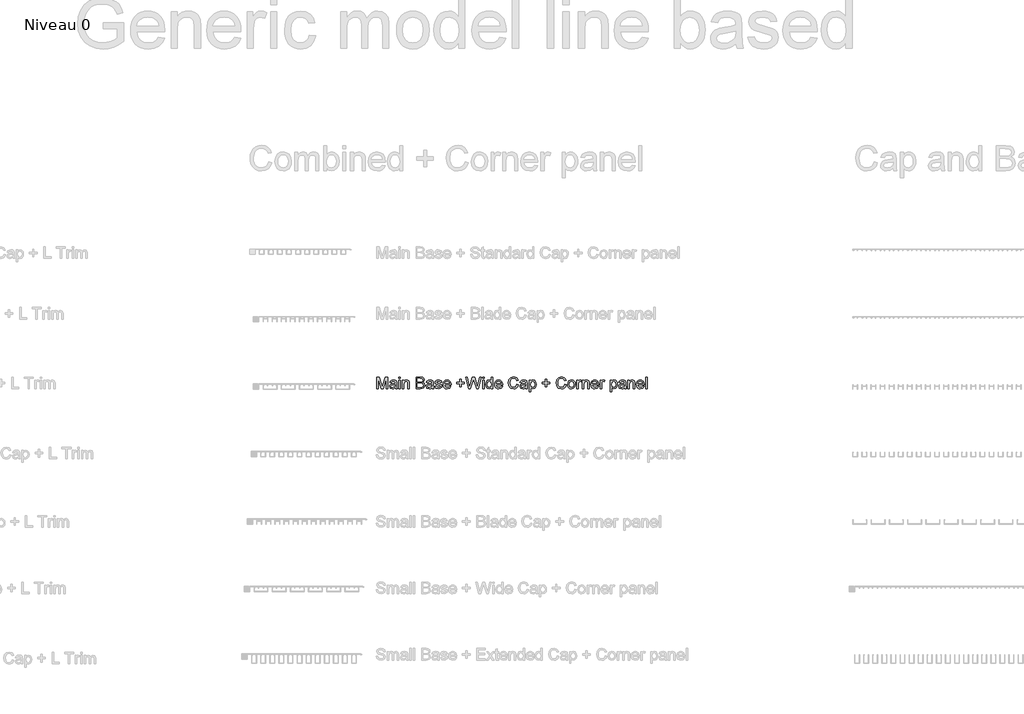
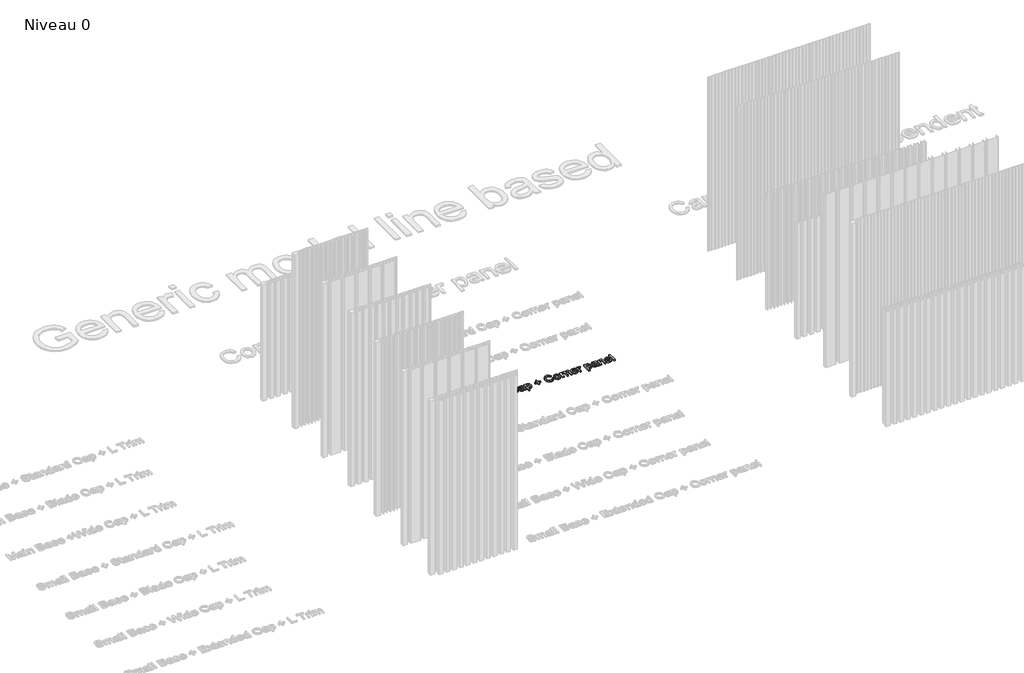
# One storey, part 15 of 25: 1 proxy.
"""IFC4 building model written with IfcOpenShell, lengths in millimetres."""

import ifcopenshell
import ifcopenshell.guid

model = None  # the IFC model being written
_history = None  # IfcOwnerHistory: only IFC2X3 demands one
_inside = {}  # id of a spatial element -> (the spatial element, [elements in it])
_under = {}  # id of a project, library or spatial element -> (it, [spatial elements below it])
_declared = {}  # id of a project -> (the project, [libraries it declares])
_typed = {}  # id of a type object -> (the type object, [elements of that type])
_made_of = {}  # id of a material, layer set ... -> (it, [elements and type objects made of it])


def new_model(schema):
    """Start an empty IFC model of exactly this schema.

    Asked for "IFC4X3", IfcOpenShell would pick the latest addendum, in which some entities
    have other attributes; the version numbers below select the first issue.
    IFC2X3 requires an IfcOwnerHistory on every rooted entity: one is made here for all.
    """
    global model, _history
    if schema == "IFC4X3":
        model = ifcopenshell.file(schema_version=(4, 3, 0, 0))
    else:
        model = ifcopenshell.file(schema=schema)
    _inside.clear()
    _under.clear()
    _declared.clear()
    _typed.clear()
    _made_of.clear()
    _history = None
    if model.schema == "IFC2X3":
        org = make("IfcOrganization", Name="unknown")
        user = make(
            "IfcPersonAndOrganization",
            ThePerson=make("IfcPerson", FamilyName="unknown"),
            TheOrganization=org,
        )
        app = make(
            "IfcApplication",
            ApplicationDeveloper=org,
            Version="unknown",
            ApplicationFullName="unknown",
            ApplicationIdentifier="unknown",
        )
        _history = make(
            "IfcOwnerHistory",
            OwningUser=user,
            OwningApplication=app,
            ChangeAction="ADDED",
            CreationDate=0,
        )
    return model


def make(cls, **values):
    """One entity of the class cls with the attributes given. An attribute that is None is left unset."""
    return model.create_entity(
        cls, **{name: value for name, value in values.items() if value is not None}
    )


def rooted(cls, **values):
    """An entity with a GlobalId (a new one), such as an element, a storey or a relation."""
    return make(cls, GlobalId=ifcopenshell.guid.new(), OwnerHistory=_history, **values)


def si_unit(unit_type, name, prefix=None):
    """IfcSIUnit, for example si_unit("LENGTHUNIT", "METRE", prefix="MILLI")."""
    return make("IfcSIUnit", UnitType=unit_type, Prefix=prefix, Name=name)


def assignment(units):
    """IfcUnitAssignment: the units of a project."""
    return None if units is None else make("IfcUnitAssignment", Units=units)


def point(xyz):
    """IfcCartesianPoint."""
    return None if xyz is None else make("IfcCartesianPoint", Coordinates=xyz)


def direction(xyz):
    """IfcDirection."""
    return None if xyz is None else make("IfcDirection", DirectionRatios=xyz)


def frame(location, z_axis=None, x_axis=None):
    """IfcAxis2Placement3D, a coordinate frame: its origin and axes. An axis left out is left unset."""
    return make(
        "IfcAxis2Placement3D",
        Location=point(location),
        Axis=direction(z_axis),
        RefDirection=direction(x_axis),
    )


def origin():
    """The frame at (0, 0, 0) with its axes left unset."""
    return frame((0.0, 0.0, 0.0))


def origin_with_axes():
    """The frame at (0, 0, 0) with the z axis (0, 0, 1) and the x axis (1, 0, 0) written out."""
    return frame((0.0, 0.0, 0.0), z_axis=(0.0, 0.0, 1.0), x_axis=(1.0, 0.0, 0.0))


def place(relative_to, where):
    """IfcLocalPlacement: puts the frame where relative to a parent placement (None: the world)."""
    return make(
        "IfcLocalPlacement", PlacementRelTo=relative_to, RelativePlacement=where
    )


def context(
    kind, dimensions, precision=None, world=None, true_north=None, identifier=None
):
    """IfcGeometricRepresentationContext, for example the 3D "Model" context."""
    return make(
        "IfcGeometricRepresentationContext",
        ContextIdentifier=identifier,
        ContextType=kind,
        CoordinateSpaceDimension=dimensions,
        Precision=precision,
        WorldCoordinateSystem=world,
        TrueNorth=true_north,
    )


def project(units=None, contexts=None):
    """IfcProject with its units and contexts."""
    return rooted(
        "IfcProject",
        Name="project",
        RepresentationContexts=contexts,
        UnitsInContext=assignment(units),
    )


def spatial(cls, under=None, at=None, **own):
    """A site, building, storey or space (cls), placed at a placement, below another one or the project."""
    s = rooted(cls, ObjectPlacement=at, **own)
    if under is not None:
        _under.setdefault(under.id(), (under, []))[1].append(s)
    return s


def polyline(points):
    """IfcPolyline through the points."""
    return make("IfcPolyline", Points=[point(p) for p in points])


def outline(outer, holes=None, kind="AREA"):
    """IfcArbitraryClosedProfileDef: a profile drawn as a closed curve; with holes, ...WithVoids."""
    if holes is None:
        return make("IfcArbitraryClosedProfileDef", ProfileType=kind, OuterCurve=outer)
    return make(
        "IfcArbitraryProfileDefWithVoids",
        ProfileType=kind,
        OuterCurve=outer,
        InnerCurves=holes,
    )


def extrude(swept, where, along, depth):
    """IfcExtrudedAreaSolid: the profile swept, set in the frame where, extruded along a direction by depth."""
    return make(
        "IfcExtrudedAreaSolid",
        SweptArea=swept,
        Position=where,
        ExtrudedDirection=direction(along),
        Depth=depth,
    )


def shape(context_of_items, identifier, shape_type, items):
    """IfcShapeRepresentation: the items that make up one representation, for example the "Body"."""
    return make(
        "IfcShapeRepresentation",
        ContextOfItems=context_of_items,
        RepresentationIdentifier=identifier,
        RepresentationType=shape_type,
        Items=items,
    )


def made_of(thing, what):
    """Note that an element or type object is made of a material, layer set ...; save() writes the relation."""
    if what is not None:
        _made_of.setdefault(what.id(), (what, []))[1].append(thing)
    return thing


def element(
    cls,
    number,
    at=None,
    inside=None,
    cuts=None,
    type_object=None,
    material=None,
    context=None,
    identifier="Body",
    shape_type=None,
    held_by="IfcProductDefinitionShape",
    body=None,
    shapes=None,
    **own,
):
    """One element of the class cls, such as IfcWall. Its Tag is "e" and its number.

    at: its placement. inside: the storey or other place that contains it. cuts: it is an
    opening in that element (IfcRelVoidsElement). A single representation is given by context,
    identifier, shape_type and body (its items); several are given by shapes. held_by: the class
    of the entity that holds the representations. save() writes the other relations.
    """
    e = rooted(cls, Tag="e%d" % number, ObjectPlacement=at, **own)
    if body is not None:
        shapes = [shape(context, identifier, shape_type, body)]
    if shapes is not None:
        e.Representation = make(held_by, Representations=shapes)
    if inside is not None:
        _inside.setdefault(inside.id(), (inside, []))[1].append(e)
    if cuts is not None:
        rooted(
            "IfcRelVoidsElement", RelatingBuildingElement=cuts, RelatedOpeningElement=e
        )
    if type_object is not None:
        _typed.setdefault(type_object.id(), (type_object, []))[1].append(e)
    return made_of(e, material)


def aggregate(whole, parts):
    """IfcRelAggregates: a whole, such as a stair, and the parts it consists of."""
    return rooted("IfcRelAggregates", RelatingObject=whole, RelatedObjects=parts)


def save(model, path):
    """Write the relations noted so far, then the file.

    IfcRelAggregates (storeys below a building ...), IfcRelContainedInSpatialStructure (elements
    in a storey), IfcRelDefinesByType, IfcRelAssociatesMaterial and IfcRelDeclares: one each for
    every whole, place, type object, material and project.
    """
    for whole, parts in _under.values():
        aggregate(whole, parts)
    for where, things in _inside.values():
        rooted(
            "IfcRelContainedInSpatialStructure",
            RelatedElements=things,
            RelatingStructure=where,
        )
    for kind, things in _typed.values():
        rooted("IfcRelDefinesByType", RelatedObjects=things, RelatingType=kind)
    for what, things in _made_of.values():
        rooted("IfcRelAssociatesMaterial", RelatedObjects=things, RelatingMaterial=what)
    for by, libraries in _declared.values():
        rooted("IfcRelDeclares", RelatingContext=by, RelatedDefinitions=libraries)
    model.write(path)


model = new_model("IFC4")

# Units and contexts
model_context = context("Model", 3, world=origin())
ifc_project = project(units=[si_unit("LENGTHUNIT", "METRE", prefix="MILLI")], contexts=[model_context])

# Site, building, storey
site = spatial("IfcSite", under=ifc_project)
building = spatial("IfcBuilding", under=site)
storey = spatial("IfcBuildingStorey", under=building, Name="Niveau 0", Elevation=0.0)

# Proxy
placement = place(None, origin())
element("IfcBuildingElementProxy", 1, Name="70mm Arial", ObjectType="70mm Arial", at=placement, inside=storey, context=model_context, shape_type="SweptSolid", body=[
    extrude(outline(polyline([(3886.1765083, 3725.5948416), (3886.1765083, 3795.9142587), (3901.3013634, 3795.9142587), (3915.688002, 3746.3507438), (3918.5893646, 3735.9985444), (3921.7310769, 3747.2091351), (3935.8773659, 3795.9142587), (3951.0022209, 3795.9142587), (3951.0022209, 3725.5948416), (3942.2122938, 3725.5948416), (3942.2122938, 3787.1243316), (3924.5466004, 3725.5948416), (3912.6321289, 3725.5948416), (3894.9664354, 3787.1243316), (3894.9664354, 3725.5948416), (3886.1765083, 3725.5948416)])), origin_with_axes(), (0.0, 0.0, 1.0), 10.0),
    extrude(outline(polyline([(3998.2480793, 3732.187287), (3989.7242535, 3726.2300512), (3980.3077007, 3724.4961007), (3967.5434217, 3728.6678825), (3963.0883708, 3739.3291028), (3964.7708178, 3746.2820725), (3969.1915331, 3751.3294134), (3975.3461988, 3754.2136083), (3982.951546, 3755.5355309), (3998.1965758, 3758.5570684), (3998.2480793, 3760.5142006), (3995.8274158, 3767.003639), (3986.110426, 3769.5444773), (3977.2174919, 3767.8534464), (3972.9770388, 3761.8532911), (3964.1871117, 3762.9520319), (3967.9897852, 3771.5359452), (3975.6466358, 3776.5661183), (3987.2435026, 3778.3344044), (3997.8961389, 3776.7721322), (4003.913462, 3772.8492839), (4006.6088108, 3766.8834642), (4007.0380065, 3759.192278), (4007.0380065, 3748.2563725), (4007.4843699, 3732.9855909), (4009.2354882, 3725.5948416), (4000.4455611, 3725.5948416), (3998.2480793, 3732.187287)]), holes=[polyline([(3998.2480793, 3749.7671412), (3984.0674547, 3747.0717925), (3976.5050271, 3745.6468629), (3973.0800458, 3743.3292063), (3971.8782979, 3739.9471445), (3974.4963914, 3735.1916566), (3982.1789938, 3733.2860279), (3991.0719279, 3735.3890866), (3996.8059819, 3740.4793471), (3998.1965758, 3747.2778064), (3998.2480793, 3749.7671412)])]), origin_with_axes(), (0.0, 0.0, 1.0), 10.0),
    extrude(outline(polyline([(4019.1241563, 3725.5948416), (4019.1241563, 3777.2356635), (4027.9140834, 3777.2356635), (4027.9140834, 3725.5948416), (4019.1241563, 3725.5948416)])), origin_with_axes(), (0.0, 0.0, 1.0), 10.0),
    extrude(outline(polyline([(4019.1241563, 3787.1243316), (4019.1241563, 3795.9142587), (4027.9140834, 3795.9142587), (4027.9140834, 3787.1243316), (4019.1241563, 3787.1243316)])), origin_with_axes(), (0.0, 0.0, 1.0), 10.0),
    extrude(outline(polyline([(4041.0989741, 3725.5948416), (4041.0989741, 3777.2356635), (4049.8889013, 3777.2356635), (4049.8889013, 3770.0251764), (4056.6101053, 3776.2570974), (4065.7863085, 3778.3344044), (4074.0869526, 3776.6605414), (4079.7523353, 3772.2655778), (4082.3875967, 3765.8018911), (4082.851128, 3757.303817), (4082.851128, 3725.5948416), (4074.0612009, 3725.5948416), (4074.0612009, 3756.119237), (4073.0482991, 3763.8962624), (4069.4688073, 3768.0079568), (4063.4343163, 3769.5444773), (4053.8975887, 3766.0937442), (4049.8889013, 3752.9946926), (4049.8889013, 3725.5948416), (4041.0989741, 3725.5948416)])), origin_with_axes(), (0.0, 0.0, 1.0), 10.0),
    extrude(outline(polyline([(4123.504541, 3725.5948416), (4123.504541, 3795.9142587), (4150.3378538, 3795.9142587), (4163.4798249, 3793.8455356), (4171.2396825, 3787.4848559), (4174.0466221, 3778.4889149), (4171.6860459, 3770.2741099), (4164.5528141, 3764.0507728), (4173.2139825, 3757.4926631), (4176.2441039, 3746.5567577), (4174.1753808, 3737.1058692), (4169.0507846, 3730.3760813), (4161.4025179, 3726.8051734), (4150.1318398, 3725.5948416), (4123.504541, 3725.5948416)]), holes=[polyline([(4132.2944682, 3767.3469955), (4148.3463859, 3767.3469955), (4157.7200191, 3768.1023799), (4163.3596501, 3771.355683), (4165.2566949, 3777.0811531), (4163.4884088, 3782.8152071), (4158.4239, 3786.2058529), (4147.1274702, 3787.1243316), (4132.2944682, 3787.1243316), (4132.2944682, 3767.3469955)]), polyline([(4132.2944682, 3734.3847687), (4150.3206859, 3734.3847687), (4156.84446, 3734.7281253), (4162.3639162, 3736.6423379), (4166.0206632, 3740.5480184), (4167.4541767, 3746.4709186), (4165.7717297, 3753.3037135), (4160.3209448, 3757.3810723), (4149.4622946, 3758.5570684), (4132.2944682, 3758.5570684), (4132.2944682, 3734.3847687)])]), origin_with_axes(), (0.0, 0.0, 1.0), 10.0),
    extrude(outline(polyline([(4220.1937396, 3732.187287), (4211.6699137, 3726.2300512), (4202.2533609, 3724.4961007), (4189.489082, 3728.6678825), (4185.034031, 3739.3291028), (4186.716478, 3746.2820725), (4191.1371933, 3751.3294134), (4197.2918591, 3754.2136083), (4204.8972062, 3755.5355309), (4220.1422361, 3758.5570684), (4220.1937396, 3760.5142006), (4217.773076, 3767.003639), (4208.0560863, 3769.5444773), (4199.1631522, 3767.8534464), (4194.922699, 3761.8532911), (4186.1327719, 3762.9520319), (4189.9354454, 3771.5359452), (4197.592296, 3776.5661183), (4209.1891628, 3778.3344044), (4219.8417991, 3776.7721322), (4225.8591223, 3772.8492839), (4228.554471, 3766.8834642), (4228.9836667, 3759.192278), (4228.9836667, 3748.2563725), (4229.4300302, 3732.9855909), (4231.1811485, 3725.5948416), (4222.3912213, 3725.5948416), (4220.1937396, 3732.187287)]), holes=[polyline([(4220.1937396, 3749.7671412), (4206.0131149, 3747.0717925), (4198.4506874, 3745.6468629), (4195.025706, 3743.3292063), (4193.8239581, 3739.9471445), (4196.4420517, 3735.1916566), (4204.124654, 3733.2860279), (4213.0175881, 3735.3890866), (4218.7516421, 3740.4793471), (4220.1422361, 3747.2778064), (4220.1937396, 3749.7671412)])]), origin_with_axes(), (0.0, 0.0, 1.0), 10.0),
    extrude(outline(polyline([(4237.7735938, 3740.9772141), (4246.563521, 3742.075955), (4250.6322958, 3735.5521809), (4259.9544256, 3733.2860279), (4268.916031, 3735.3633349), (4271.8345615, 3740.2389976), (4268.8988632, 3744.1875976), (4259.8514186, 3746.6941003), (4246.6150244, 3750.9946408), (4240.8380508, 3756.0162301), (4238.8723347, 3763.1065424), (4240.4517748, 3769.6560682), (4244.7608992, 3774.6604896), (4250.3490267, 3777.2614153), (4257.9114542, 3778.3344044), (4268.6070101, 3776.6090379), (4275.4054694, 3771.9393891), (4278.4270068, 3764.0507728), (4269.6370797, 3762.9520319), (4266.3322731, 3767.8019429), (4258.5981673, 3769.5444773), (4250.1859323, 3767.8791981), (4247.6622619, 3763.9992694), (4248.7094993, 3761.4412632), (4251.9885541, 3759.5012988), (4259.5595656, 3757.6300058), (4272.4611872, 3753.4925596), (4278.4527586, 3748.805743), (4280.6244886, 3741.1660602), (4278.0750664, 3732.7538252), (4270.7186528, 3726.6506629), (4259.8342508, 3724.4961007), (4244.5033818, 3728.6507147), (4237.7735938, 3740.9772141)])), origin_with_axes(), (0.0, 0.0, 1.0), 10.0),
    extrude(outline(polyline([(4326.6685991, 3740.9772141), (4335.286848, 3739.8784732), (4327.2265535, 3728.5305399), (4312.2132893, 3724.4961007), (4301.8997175, 3726.2364891), (4293.9638898, 3731.4576543), (4288.9036729, 3739.8205318), (4287.216934, 3750.9860569), (4288.9208408, 3762.5271282), (4294.0325611, 3771.158253), (4301.8610899, 3776.5403666), (4311.7154223, 3778.3344044), (4321.2628798, 3776.5446585), (4328.8918327, 3771.1754208), (4333.8941081, 3762.5614639), (4335.5615332, 3751.0375604), (4335.5100298, 3748.6684003), (4296.0068611, 3748.6684003), (4301.062786, 3737.2517958), (4312.3849675, 3733.2860279), (4321.0032164, 3735.1229853), (4326.6685991, 3740.9772141)]), holes=[polyline([(4296.0068611, 3757.4583275), (4326.7716061, 3757.4583275), (4323.2522017, 3765.424199), (4311.6810867, 3769.5444773), (4300.8567721, 3766.2568385), (4296.0068611, 3757.4583275)])]), origin_with_axes(), (0.0, 0.0, 1.0), 10.0),
    extrude(outline(polyline([(4389.399837, 3736.5822505), (4389.399837, 3755.2608457), (4370.7212418, 3755.2608457), (4370.7212418, 3764.0507728), (4389.399837, 3764.0507728), (4389.399837, 3782.729368), (4398.1897641, 3782.729368), (4398.1897641, 3764.0507728), (4416.8683593, 3764.0507728), (4416.8683593, 3755.2608457), (4398.1897641, 3755.2608457), (4398.1897641, 3736.5822505), (4389.399837, 3736.5822505)])), origin_with_axes(), (0.0, 0.0, 1.0), 10.0),
    extrude(outline(polyline([(4442.6372668, 3725.5948416), (4423.4608046, 3795.9142587), (4432.525417, 3795.9142587), (4443.6501685, 3749.6984699), (4447.0837338, 3735.4320062), (4450.7576487, 3748.0503586), (4464.6979237, 3795.9142587), (4477.7626397, 3795.9142587), (4487.8916573, 3761.2180815), (4495.4283331, 3735.4320062), (4498.7588914, 3749.2864421), (4509.9866499, 3795.9142587), (4519.0512622, 3795.9142587), (4499.8576323, 3725.5948416), (4490.4668312, 3725.5948416), (4473.6080257, 3779.8451732), (4471.2560334, 3787.4161846), (4468.6121882, 3778.3000688), (4453.2469835, 3725.5948416), (4442.6372668, 3725.5948416)])), origin_with_axes(), (0.0, 0.0, 1.0), 10.0),
    extrude(outline(polyline([(4526.7424485, 3725.5948416), (4526.7424485, 3777.2356635), (4535.5323756, 3777.2356635), (4535.5323756, 3725.5948416), (4526.7424485, 3725.5948416)])), origin_with_axes(), (0.0, 0.0, 1.0), 10.0),
    extrude(outline(polyline([(4526.7424485, 3787.1243316), (4526.7424485, 3795.9142587), (4535.5323756, 3795.9142587), (4535.5323756, 3787.1243316), (4526.7424485, 3787.1243316)])), origin_with_axes(), (0.0, 0.0, 1.0), 10.0),
    extrude(outline(polyline([(4580.5807522, 3725.5948416), (4580.5807522, 3733.8869018), (4574.765151, 3726.843801), (4566.7263163, 3724.4961007), (4555.8419143, 3727.8953304), (4548.1507281, 3737.3805545), (4545.4210437, 3751.3637491), (4547.9361302, 3765.3555277), (4555.472806, 3774.9866783), (4566.6919806, 3778.3344044), (4574.7951947, 3775.9394927), (4580.5807522, 3769.7161556), (4580.5807522, 3795.9142587), (4589.3706794, 3795.9142587), (4589.3706794, 3725.5948416), (4580.5807522, 3725.5948416)]), holes=[polyline([(4554.2109708, 3751.3980848), (4558.1767387, 3737.7925823), (4567.5332041, 3733.2860279), (4576.7780787, 3737.5865684), (4580.5807522, 3750.7285395), (4576.7094074, 3764.9950033), (4567.1726798, 3769.5444773), (4557.9192213, 3765.1752655), (4554.2109708, 3751.3980848)])]), origin_with_axes(), (0.0, 0.0, 1.0), 10.0),
    extrude(outline(polyline([(4638.7110125, 3740.9772141), (4647.3292614, 3739.8784732), (4639.2689669, 3728.5305399), (4624.2557027, 3724.4961007), (4613.9421309, 3726.2364891), (4606.0063032, 3731.4576543), (4600.9460863, 3739.8205318), (4599.2593474, 3750.9860569), (4600.9632542, 3762.5271282), (4606.0749745, 3771.158253), (4613.9035033, 3776.5403666), (4623.7578357, 3778.3344044), (4633.3052932, 3776.5446585), (4640.9342461, 3771.1754208), (4645.9365215, 3762.5614639), (4647.6039466, 3751.0375604), (4647.5524432, 3748.6684003), (4608.0492745, 3748.6684003), (4613.1051994, 3737.2517958), (4624.4273809, 3733.2860279), (4633.0456298, 3735.1229853), (4638.7110125, 3740.9772141)]), holes=[polyline([(4608.0492745, 3757.4583275), (4638.8140195, 3757.4583275), (4635.2946151, 3765.424199), (4623.7235001, 3769.5444773), (4612.8991855, 3766.2568385), (4608.0492745, 3757.4583275)])]), origin_with_axes(), (0.0, 0.0, 1.0), 10.0),
    extrude(outline(polyline([(4734.4044771, 3750.5911969), (4743.1944043, 3748.3250438), (4739.1385053, 3738.0822894), (4732.7735336, 3730.599263), (4724.4128021, 3726.0218913), (4714.3696237, 3724.4961007), (4696.0773046, 3729.114246), (4685.3474131, 3742.4879828), (4681.6649143, 3761.2867528), (4685.8281122, 3780.3945436), (4697.6653285, 3792.7811304), (4714.5584698, 3797.0129996), (4732.1640758, 3791.536463), (4742.0956634, 3776.1197548), (4733.3057362, 3774.02528), (4726.0952491, 3784.8324267), (4714.2151132, 3788.2230725), (4700.4636843, 3784.4633185), (4692.6952428, 3774.3686365), (4690.4548414, 3761.3039206), (4693.1072706, 3746.1618977), (4701.3649951, 3736.4878275), (4713.4940645, 3733.2860279), (4726.9450565, 3737.6466558), (4734.4044771, 3750.5911969)])), origin_with_axes(), (0.0, 0.0, 1.0), 10.0),
    extrude(outline(polyline([(4787.14404, 3732.187287), (4778.6202141, 3726.2300512), (4769.2036613, 3724.4961007), (4756.4393824, 3728.6678825), (4751.9843314, 3739.3291028), (4753.6667784, 3746.2820725), (4758.0874937, 3751.3294134), (4764.2421595, 3754.2136083), (4771.8475066, 3755.5355309), (4787.0925365, 3758.5570684), (4787.14404, 3760.5142006), (4784.7233764, 3767.003639), (4775.0063867, 3769.5444773), (4766.1134526, 3767.8534464), (4761.8729994, 3761.8532911), (4753.0830723, 3762.9520319), (4756.8857459, 3771.5359452), (4764.5425964, 3776.5661183), (4776.1394632, 3778.3344044), (4786.7920995, 3776.7721322), (4792.8094227, 3772.8492839), (4795.5047714, 3766.8834642), (4795.9339671, 3759.192278), (4795.9339671, 3748.2563725), (4796.3803306, 3732.9855909), (4798.1314489, 3725.5948416), (4789.3415217, 3725.5948416), (4787.14404, 3732.187287)]), holes=[polyline([(4787.14404, 3749.7671412), (4772.9634153, 3747.0717925), (4765.4009878, 3745.6468629), (4761.9760064, 3743.3292063), (4760.7742585, 3739.9471445), (4763.3923521, 3735.1916566), (4771.0749544, 3733.2860279), (4779.9678885, 3735.3890866), (4785.7019425, 3740.4793471), (4787.0925365, 3747.2778064), (4787.14404, 3749.7671412)])]), origin_with_axes(), (0.0, 0.0, 1.0), 10.0),
    extrude(outline(polyline([(4808.0201169, 3705.8175056), (4808.0201169, 3777.2356635), (4816.810044, 3777.2356635), (4816.810044, 3768.6174147), (4822.8874546, 3775.905157), (4831.0936756, 3778.3344044), (4842.235595, 3774.9351748), (4849.5147534, 3765.3555277), (4851.9697526, 3751.8101126), (4849.1971486, 3737.5694006), (4841.145438, 3727.8695786), (4830.0292704, 3724.4961007), (4822.3810037, 3726.7536699), (4816.810044, 3732.4619722), (4816.810044, 3705.8175056), (4808.0201169, 3705.8175056)]), holes=[polyline([(4816.810044, 3751.0032247), (4820.6127176, 3737.6123201), (4829.8404243, 3733.2860279), (4839.2569771, 3737.7668306), (4843.1798255, 3751.6556021), (4839.3514002, 3765.0808424), (4830.2009487, 3769.5444773), (4820.870235, 3764.7975733), (4816.810044, 3751.0032247)])]), origin_with_axes(), (0.0, 0.0, 1.0), 10.0),
    extrude(outline(polyline([(4906.9067972, 3736.5822505), (4906.9067972, 3755.2608457), (4888.228202, 3755.2608457), (4888.228202, 3764.0507728), (4906.9067972, 3764.0507728), (4906.9067972, 3782.729368), (4915.6967244, 3782.729368), (4915.6967244, 3764.0507728), (4934.3753195, 3764.0507728), (4934.3753195, 3755.2608457), (4915.6967244, 3755.2608457), (4915.6967244, 3736.5822505), (4906.9067972, 3736.5822505)])), origin_with_axes(), (0.0, 0.0, 1.0), 10.0),
    extrude(outline(polyline([(5024.4720727, 3750.5911969), (5033.2619998, 3748.3250438), (5029.2061008, 3738.0822894), (5022.8411292, 3730.599263), (5014.4803977, 3726.0218913), (5004.4372192, 3724.4961007), (4986.1449002, 3729.114246), (4975.4150086, 3742.4879828), (4971.7325099, 3761.2867528), (4975.8957078, 3780.3945436), (4987.7329241, 3792.7811304), (5004.6260653, 3797.0129996), (5022.2316713, 3791.536463), (5032.1632589, 3776.1197548), (5023.3733318, 3774.02528), (5016.1628447, 3784.8324267), (5004.2827088, 3788.2230725), (4990.5312798, 3784.4633185), (4982.7628383, 3774.3686365), (4980.522437, 3761.3039206), (4983.1748662, 3746.1618977), (4991.4325907, 3736.4878275), (5003.5616601, 3733.2860279), (5017.0126521, 3737.6466558), (5024.4720727, 3750.5911969)])), origin_with_axes(), (0.0, 0.0, 1.0), 10.0),
    extrude(outline(polyline([(5042.051927, 3751.4152526), (5043.9532637, 3763.8662187), (5049.6572741, 3772.6175182), (5065.1426535, 3778.3344044), (5074.3767982, 3776.594016), (5081.7525256, 3771.3728508), (5086.5874147, 3763.0829366), (5088.1990444, 3752.1363013), (5085.3491852, 3736.4964114), (5077.0485412, 3727.6463969), (5065.1426535, 3724.4961007), (5055.796918, 3726.2300512), (5048.4297745, 3731.4319026), (5043.6463888, 3739.895641), (5042.051927, 3751.4152526)]), holes=[polyline([(5050.8418541, 3751.4324204), (5054.910629, 3737.8097501), (5065.1426535, 3733.2860279), (5075.3403424, 3737.8355019), (5079.4091173, 3751.7071056), (5075.3145907, 3765.020755), (5065.1426535, 3769.5444773), (5054.910629, 3765.0379229), (5050.8418541, 3751.4324204)])]), origin_with_axes(), (0.0, 0.0, 1.0), 10.0),
    extrude(outline(polyline([(5098.0877125, 3725.5948416), (5098.0877125, 3777.2356635), (5105.7788987, 3777.2356635), (5105.7788987, 3769.5959808), (5111.2382675, 3776.6347896), (5116.731972, 3778.3344044), (5125.5562348, 3775.6218879), (5122.6205365, 3767.7418555), (5116.4401189, 3769.5444773), (5111.4700332, 3767.8105268), (5108.3025692, 3763.0035354), (5106.8776396, 3752.7371752), (5106.8776396, 3725.5948416), (5098.0877125, 3725.5948416)])), origin_with_axes(), (0.0, 0.0, 1.0), 10.0),
    extrude(outline(polyline([(5131.0499392, 3725.5948416), (5131.0499392, 3777.2356635), (5139.8398664, 3777.2356635), (5139.8398664, 3770.0251764), (5146.5610704, 3776.2570974), (5155.7372737, 3778.3344044), (5164.0379177, 3776.6605414), (5169.7033005, 3772.2655778), (5172.3385618, 3765.8018911), (5172.8020931, 3757.303817), (5172.8020931, 3725.5948416), (5164.012166, 3725.5948416), (5164.012166, 3756.119237), (5162.9992642, 3763.8962624), (5159.4197724, 3768.0079568), (5153.3852814, 3769.5444773), (5143.8485538, 3766.0937442), (5139.8398664, 3752.9946926), (5139.8398664, 3725.5948416), (5131.0499392, 3725.5948416)])), origin_with_axes(), (0.0, 0.0, 1.0), 10.0),
    extrude(outline(polyline([(5221.0436854, 3740.9772141), (5229.6619343, 3739.8784732), (5221.6016398, 3728.5305399), (5206.5883756, 3724.4961007), (5196.2748038, 3726.2364891), (5188.3389761, 3731.4576543), (5183.2787592, 3739.8205318), (5181.5920203, 3750.9860569), (5183.2959271, 3762.5271282), (5188.4076474, 3771.158253), (5196.2361762, 3776.5403666), (5206.0905086, 3778.3344044), (5215.6379661, 3776.5446585), (5223.266919, 3771.1754208), (5228.2691944, 3762.5614639), (5229.9366195, 3751.0375604), (5229.8851161, 3748.6684003), (5190.3819474, 3748.6684003), (5195.4378723, 3737.2517958), (5206.7600538, 3733.2860279), (5215.3783027, 3735.1229853), (5221.0436854, 3740.9772141)]), holes=[polyline([(5190.3819474, 3757.4583275), (5221.1466924, 3757.4583275), (5217.627288, 3765.424199), (5206.056173, 3769.5444773), (5195.2318584, 3766.2568385), (5190.3819474, 3757.4583275)])]), origin_with_axes(), (0.0, 0.0, 1.0), 10.0),
    extrude(outline(polyline([(5238.7265467, 3725.5948416), (5238.7265467, 3777.2356635), (5246.4177329, 3777.2356635), (5246.4177329, 3769.5959808), (5251.8771017, 3776.6347896), (5257.3708062, 3778.3344044), (5266.195069, 3775.6218879), (5263.2593707, 3767.7418555), (5257.0789531, 3769.5444773), (5252.1088674, 3767.8105268), (5248.9414034, 3763.0035354), (5247.5164738, 3752.7371752), (5247.5164738, 3725.5948416), (5238.7265467, 3725.5948416)])), origin_with_axes(), (0.0, 0.0, 1.0), 10.0),
    extrude(outline(polyline([(5299.1572958, 3705.8175056), (5299.1572958, 3777.2356635), (5307.9472229, 3777.2356635), (5307.9472229, 3768.6174147), (5314.0246335, 3775.905157), (5322.2308545, 3778.3344044), (5333.3727739, 3774.9351748), (5340.6519323, 3765.3555277), (5343.1069314, 3751.8101126), (5340.3343275, 3737.5694006), (5332.2826169, 3727.8695786), (5321.1664493, 3724.4961007), (5313.5181826, 3726.7536699), (5307.9472229, 3732.4619722), (5307.9472229, 3705.8175056), (5299.1572958, 3705.8175056)]), holes=[polyline([(5307.9472229, 3751.0032247), (5311.7498964, 3737.6123201), (5320.9776032, 3733.2860279), (5330.394156, 3737.7668306), (5334.3170043, 3751.6556021), (5330.488579, 3765.0808424), (5321.3381275, 3769.5444773), (5312.0074138, 3764.7975733), (5307.9472229, 3751.0032247)])]), origin_with_axes(), (0.0, 0.0, 1.0), 10.0),
    extrude(outline(polyline([(5385.9578262, 3732.187287), (5377.4340004, 3726.2300512), (5368.0174476, 3724.4961007), (5355.2531687, 3728.6678825), (5350.7981177, 3739.3291028), (5352.4805647, 3746.2820725), (5356.90128, 3751.3294134), (5363.0559458, 3754.2136083), (5370.6612929, 3755.5355309), (5385.9063228, 3758.5570684), (5385.9578262, 3760.5142006), (5383.5371627, 3767.003639), (5373.8201729, 3769.5444773), (5364.9272388, 3767.8534464), (5360.6867857, 3761.8532911), (5351.8968586, 3762.9520319), (5355.6995321, 3771.5359452), (5363.3563827, 3776.5661183), (5374.9532495, 3778.3344044), (5385.6058858, 3776.7721322), (5391.623209, 3772.8492839), (5394.3185577, 3766.8834642), (5394.7477534, 3759.192278), (5394.7477534, 3748.2563725), (5395.1941169, 3732.9855909), (5396.9452352, 3725.5948416), (5388.155308, 3725.5948416), (5385.9578262, 3732.187287)]), holes=[polyline([(5385.9578262, 3749.7671412), (5371.7772016, 3747.0717925), (5364.2147741, 3745.6468629), (5360.7897927, 3743.3292063), (5359.5880448, 3739.9471445), (5362.2061384, 3735.1916566), (5369.8887407, 3733.2860279), (5378.7816748, 3735.3890866), (5384.5157288, 3740.4793471), (5385.9063228, 3747.2778064), (5385.9578262, 3749.7671412)])]), origin_with_axes(), (0.0, 0.0, 1.0), 10.0),
    extrude(outline(polyline([(5406.8339032, 3725.5948416), (5406.8339032, 3777.2356635), (5415.6238303, 3777.2356635), (5415.6238303, 3770.0251764), (5422.3450344, 3776.2570974), (5431.5212376, 3778.3344044), (5439.8218817, 3776.6605414), (5445.4872644, 3772.2655778), (5448.1225258, 3765.8018911), (5448.5860571, 3757.303817), (5448.5860571, 3725.5948416), (5439.79613, 3725.5948416), (5439.79613, 3756.119237), (5438.7832282, 3763.8962624), (5435.2037364, 3768.0079568), (5429.1692454, 3769.5444773), (5419.6325178, 3766.0937442), (5415.6238303, 3752.9946926), (5415.6238303, 3725.5948416), (5406.8339032, 3725.5948416)])), origin_with_axes(), (0.0, 0.0, 1.0), 10.0),
    extrude(outline(polyline([(5496.8276494, 3740.9772141), (5505.4458983, 3739.8784732), (5497.3856038, 3728.5305399), (5482.3723395, 3724.4961007), (5472.0587678, 3726.2364891), (5464.12294, 3731.4576543), (5459.0627232, 3739.8205318), (5457.3759842, 3750.9860569), (5459.079891, 3762.5271282), (5464.1916113, 3771.158253), (5472.0201402, 3776.5403666), (5481.8744726, 3778.3344044), (5491.42193, 3776.5446585), (5499.0508829, 3771.1754208), (5504.0531584, 3762.5614639), (5505.7205835, 3751.0375604), (5505.66908, 3748.6684003), (5466.1659114, 3748.6684003), (5471.2218363, 3737.2517958), (5482.5440178, 3733.2860279), (5491.1622667, 3735.1229853), (5496.8276494, 3740.9772141)]), holes=[polyline([(5466.1659114, 3757.4583275), (5496.9306564, 3757.4583275), (5493.4112519, 3765.424199), (5481.8401369, 3769.5444773), (5471.0158223, 3766.2568385), (5466.1659114, 3757.4583275)])]), origin_with_axes(), (0.0, 0.0, 1.0), 10.0),
    extrude(outline(polyline([(5514.5105106, 3725.5948416), (5514.5105106, 3795.9142587), (5523.3004378, 3795.9142587), (5523.3004378, 3725.5948416), (5514.5105106, 3725.5948416)])), origin_with_axes(), (0.0, 0.0, 1.0), 10.0),
])

save(model, "model.ifc")
